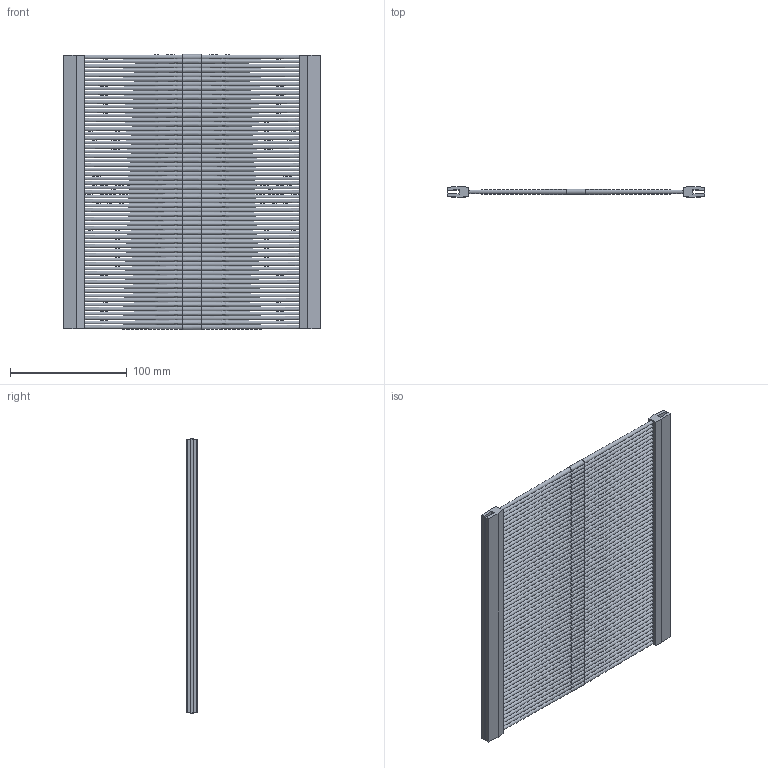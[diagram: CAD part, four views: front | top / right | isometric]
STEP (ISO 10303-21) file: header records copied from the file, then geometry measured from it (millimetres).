
FILE_DESCRIPTION(('Open CASCADE Model'),'2;1');
FILE_NAME('Open CASCADE Shape Model','2025-02-21T16:18:38',('Author'),( 'Open CASCADE'),'Open CASCADE STEP processor 7.8','Open CASCADE 7.8' ,'Unknown');
FILE_SCHEMA(('AUTOMOTIVE_DESIGN { 1 0 10303 214 1 1 1 1 }'));
Length unit declared in the file: millimetre
Products named in the file (2): Compound1; Solid1
Assembly tree (2 placements, depth 2):
  Compound1
    Solid1  x2
Bounding box: 220 x 9.5 x 235.5 mm (x, y, z)
Volume: 187203.4 mm3; surface area: 161661.5 mm2
Topology: 2 solids, 2 shells, 148 faces, 792 edges, 526 vertices
Faces by surface type: cone 122, plane 26
Entity records: 6818 total; most frequent: CARTESIAN_POINT 3497, ORIENTED_EDGE 792, DIRECTION 672, EDGE_CURVE 396, AXIS2_PLACEMENT_3D 320, VERTEX_POINT 263, CIRCLE 243, FACE_BOUND 135
